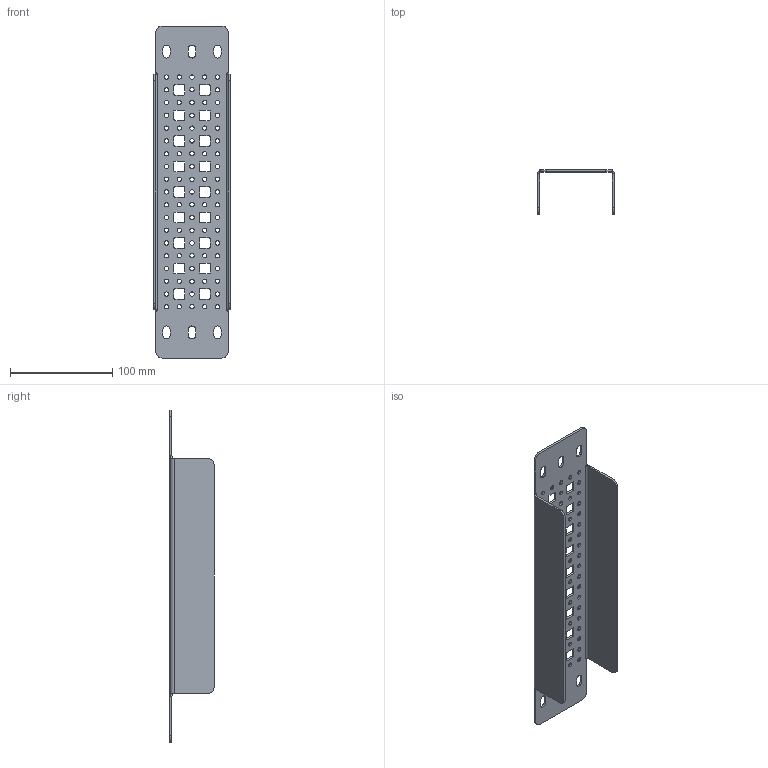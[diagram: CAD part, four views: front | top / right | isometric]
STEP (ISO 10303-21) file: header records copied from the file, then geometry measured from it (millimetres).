
FILE_DESCRIPTION((''),'2;1');
FILE_NAME('SCE-FMG05_ASM','2025-11-24T13:41:42',('ChadS'),('SAGINAW CONTROL & ENGINEERING'),'CREO PARAMETRIC BY PTC INC, 2021284','CREO PARAMETRIC BY PTC INC, 2021284','');
FILE_SCHEMA(('AUTOMOTIVE_DESIGN { 1 0 10303 214 1 1 1 1 }'));
Length unit declared in the file: inch
Products named in the file (3): IMS-FILLER-MOUNTING-GRID; 108627; SCE-FMG05_ASM
Assembly tree (2 placements, depth 2):
  SCE-FMG05_ASM
    IMS-FILLER-MOUNTING-GRID
    108627
Bounding box: 75 x 43.18 x 325.12 mm (x, y, z)
Volume: 77061.6 mm3; surface area: 83491.4 mm2
Topology: 1 solids, 1 shells, 368 faces, 1082 edges, 716 vertices
Faces by surface type: cylinder 250, plane 106, bspline 12
Entity records: 16965 total; most frequent: CARTESIAN_POINT 2491, DIRECTION 2304, ORIENTED_EDGE 2164, PRESENTATION_STYLE_ASSIGNMENT 1083, STYLED_ITEM 1083, CURVE_STYLE 1082, EDGE_CURVE 1082, AXIS2_PLACEMENT_3D 869
